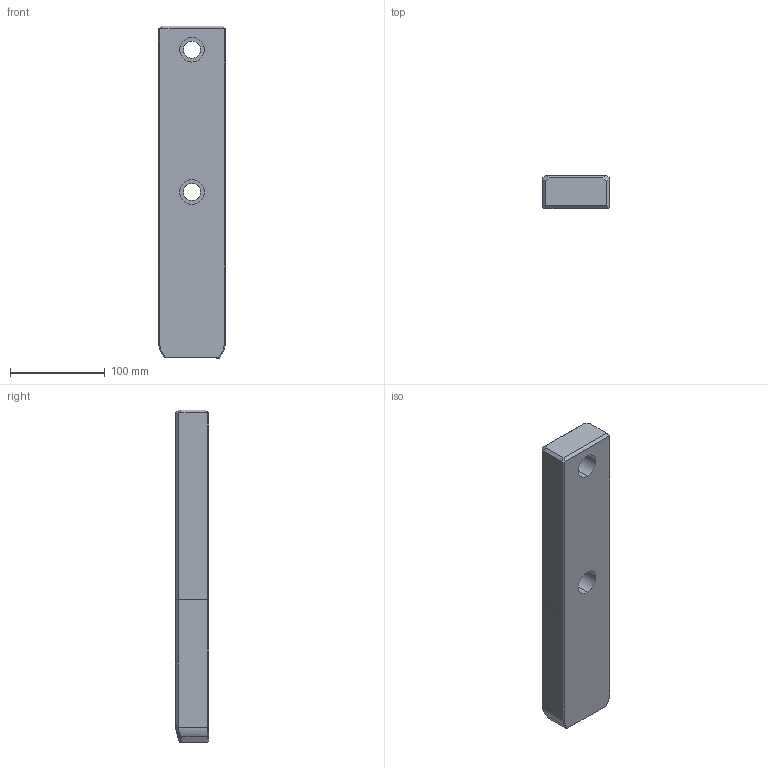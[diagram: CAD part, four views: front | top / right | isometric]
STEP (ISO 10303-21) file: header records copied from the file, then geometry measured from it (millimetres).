
FILE_DESCRIPTION((''),'2;1');
FILE_NAME('','2010-08-30T14:07:59+09:00',('misumi'),(''),'M/STEP i/f 1R2-14','CADmeister v5.1','');
FILE_SCHEMA(('AUTOMOTIVE_DESIGN'));
Length unit declared in the file: millimetre
Products named in the file (1): OGPZ70-350
Bounding box: 70 x 35 x 350 mm (x, y, z)
Volume: 821128.4 mm3; surface area: 79457.3 mm2
Topology: 1 solids, 1 shells, 53 faces, 126 edges, 77 vertices
Faces by surface type: plane 34, cylinder 11, cone 4, bspline 4
Entity records: 1818 total; most frequent: CARTESIAN_POINT 521, ORIENTED_EDGE 252, DIRECTION 238, EDGE_CURVE 126, LINE 90, VECTOR 90, VERTEX_POINT 77, AXIS2_PLACEMENT_3D 74
